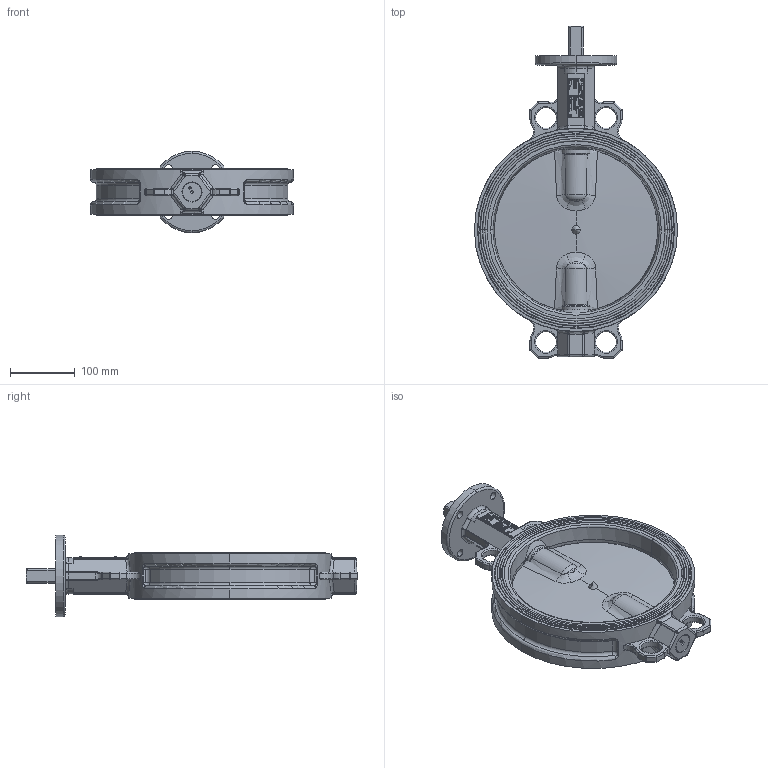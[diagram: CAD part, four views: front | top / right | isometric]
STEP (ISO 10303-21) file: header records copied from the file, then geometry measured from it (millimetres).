
FILE_DESCRIPTION (( 'STEP AP203' ), '1' );
FILE_NAME ('VPN-00 DN250.STEP', '2014-06-02T09:46:41', ( 'FAREX' ), ( '' ), 'SwSTEP 2.0', 'SolidWorks 2011', '' );
FILE_SCHEMA (( 'CONFIG_CONTROL_DESIGN' ));
Length unit declared in the file: millimetre
Products named in the file (1): VPN-00 DN250
Bounding box: 312.5 x 510.8 x 125 mm (x, y, z)
Volume: 3067393.9 mm3; surface area: 618868.2 mm2
Topology: 15 solids, 15 shells, 3280 faces, 8224 edges, 5331 vertices
Faces by surface type: bspline 1532, plane 1171, cylinder 289, torus 187, cone 77, sphere 24
Entity records: 158635 total; most frequent: CARTESIAN_POINT 90488, ORIENTED_EDGE 16372, DIRECTION 9446, EDGE_CURVE 8186, VERTEX_POINT 5331, LINE 3920, VECTOR 3920, EDGE_LOOP 3721
